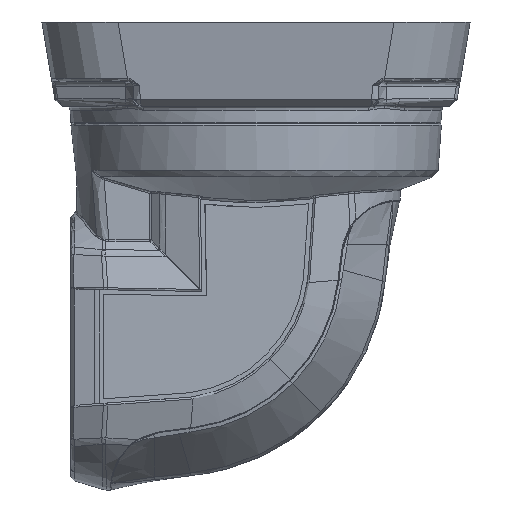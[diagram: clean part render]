
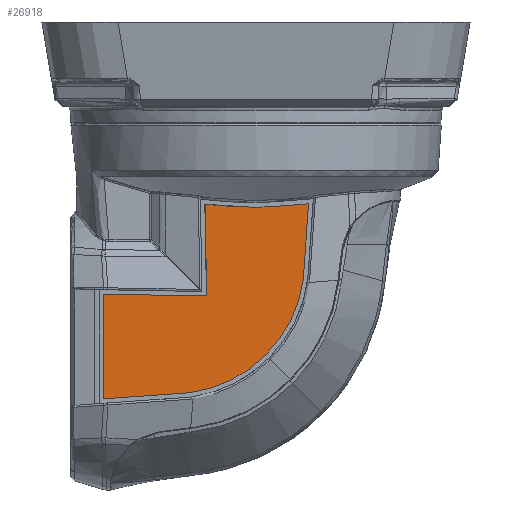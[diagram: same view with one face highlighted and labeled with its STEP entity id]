
A CAD part, left-side view. The second image highlights one B-rep face of the part: STEP entity #26918.
In plain terms, the highlighted planar face has unit normal (-1, 0.012, 0).
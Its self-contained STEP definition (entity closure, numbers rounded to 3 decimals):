
#22518=FACE_OUTER_BOUND('',#30537,.T.);
#24445=CIRCLE('',#57907,100.);
#26918=ADVANCED_FACE('',(#22518),#27241,.T.);
#27241=PLANE('',#57908);
#30537=EDGE_LOOP('',(#43127,#43128,#43129,#43130,#43131,#43132,#43133,#43134,
#43135,#43136));
#31291=LINE('',#126679,#32080);
#31293=LINE('',#126683,#32082);
#31295=LINE('',#126687,#32084);
#31300=LINE('',#126757,#32089);
#31303=LINE('',#126870,#32092);
#32080=VECTOR('',#64899,1.);
#32082=VECTOR('',#64903,1.);
#32084=VECTOR('',#64907,1.);
#32089=VECTOR('',#64914,1.);
#32092=VECTOR('',#64919,1.);
#43127=ORIENTED_EDGE('',*,*,#52242,.T.);
#43128=ORIENTED_EDGE('',*,*,#52240,.F.);
#43129=ORIENTED_EDGE('',*,*,#52238,.F.);
#43130=ORIENTED_EDGE('',*,*,#52236,.T.);
#43131=ORIENTED_EDGE('',*,*,#52245,.T.);
#43132=ORIENTED_EDGE('',*,*,#52233,.T.);
#43133=ORIENTED_EDGE('',*,*,#52231,.T.);
#43134=ORIENTED_EDGE('',*,*,#52229,.F.);
#43135=ORIENTED_EDGE('',*,*,#52227,.T.);
#43136=ORIENTED_EDGE('',*,*,#52244,.T.);
#46655=VERTEX_POINT('',#126678);
#46656=VERTEX_POINT('',#126680);
#46657=VERTEX_POINT('',#126684);
#46658=VERTEX_POINT('',#126688);
#46659=VERTEX_POINT('',#126697);
#46660=VERTEX_POINT('',#126724);
#46661=VERTEX_POINT('',#126731);
#46662=VERTEX_POINT('',#126758);
#46663=VERTEX_POINT('',#126773);
#46664=VERTEX_POINT('',#126832);
#52227=EDGE_CURVE('',#46656,#46655,#31291,.T.);
#52229=EDGE_CURVE('',#46656,#46657,#31293,.T.);
#52231=EDGE_CURVE('',#46658,#46657,#31295,.T.);
#52233=EDGE_CURVE('',#46659,#46658,#54807,.T.);
#52236=EDGE_CURVE('',#46661,#46660,#54808,.T.);
#52238=EDGE_CURVE('',#46661,#46662,#31300,.T.);
#52240=EDGE_CURVE('',#46662,#46663,#54809,.T.);
#52242=EDGE_CURVE('',#46664,#46663,#54811,.T.);
#52244=EDGE_CURVE('',#46655,#46664,#31303,.T.);
#52245=EDGE_CURVE('',#46660,#46659,#24445,.T.);
#54807=B_SPLINE_CURVE_WITH_KNOTS('',3,(#126691,#126692,#126693,#126694,#126695,
#126696),.UNSPECIFIED.,.F.,.F.,(4,2,4),(0.,0.5,1.),.UNSPECIFIED.);
#54808=B_SPLINE_CURVE_WITH_KNOTS('',3,(#126725,#126726,#126727,#126728,#126729,
#126730),.UNSPECIFIED.,.F.,.F.,(4,2,4),(0.,0.5,1.),.UNSPECIFIED.);
#54809=B_SPLINE_CURVE_WITH_KNOTS('',3,(#126761,#126762,#126763,#126764,#126765,
#126766,#126767,#126768,#126769,#126770,#126771,#126772),.UNSPECIFIED.,.F.,
 .F.,(4,2,2,2,2,4),(0.,0.503,0.755,0.88,
0.943,1.),.UNSPECIFIED.);
#54811=B_SPLINE_CURVE_WITH_KNOTS('',3,(#126826,#126827,#126828,#126829,#126830,
#126831),.UNSPECIFIED.,.F.,.F.,(4,2,4),(0.,0.5,1.),.UNSPECIFIED.);
#57907=AXIS2_PLACEMENT_3D('',#126872,#64922,#64923);
#57908=AXIS2_PLACEMENT_3D('',#126873,#64924,#64925);
#64899=DIRECTION('',(0.,0.,-1.));
#64903=DIRECTION('',(-0.012,-1.,-0.017));
#64907=DIRECTION('',(0.,-0.017,-1.));
#64914=DIRECTION('',(0.001,0.07,-0.998));
#64919=DIRECTION('',(-0.012,-0.997,0.07));
#64922=DIRECTION('',(1.,-0.012,0.));
#64923=DIRECTION('',(0.012,1.,0.));
#64924=DIRECTION('',(-1.,0.012,0.));
#64925=DIRECTION('',(0.012,1.,0.));
#126678=CARTESIAN_POINT('',(397.59,-48.904,-132.524));
#126679=CARTESIAN_POINT('',(397.59,-48.904,-41.742));
#126680=CARTESIAN_POINT('',(397.59,-48.904,-85.112));
#126683=CARTESIAN_POINT('',(396.569,-132.48,-86.571));
#126684=CARTESIAN_POINT('',(397.02,-95.557,-85.927));
#126687=CARTESIAN_POINT('',(397.029,-94.797,-42.413));
#126688=CARTESIAN_POINT('',(397.029,-94.832,-44.367));
#126691=CARTESIAN_POINT('',(396.784,-114.907,-45.63));
#126692=CARTESIAN_POINT('',(396.824,-111.582,-45.536));
#126693=CARTESIAN_POINT('',(396.865,-108.223,-45.439));
#126694=CARTESIAN_POINT('',(396.947,-101.52,-45.026));
#126695=CARTESIAN_POINT('',(396.988,-98.173,-44.737));
#126696=CARTESIAN_POINT('',(397.029,-94.832,-44.367));
#126697=CARTESIAN_POINT('',(396.784,-114.907,-45.63));
#126724=CARTESIAN_POINT('',(396.707,-121.15,-45.612));
#126725=CARTESIAN_POINT('',(396.455,-141.813,-44.166));
#126726=CARTESIAN_POINT('',(396.497,-138.376,-44.576));
#126727=CARTESIAN_POINT('',(396.539,-134.932,-44.9));
#126728=CARTESIAN_POINT('',(396.623,-128.033,-45.374));
#126729=CARTESIAN_POINT('',(396.665,-124.574,-45.496));
#126730=CARTESIAN_POINT('',(396.707,-121.15,-45.612));
#126731=CARTESIAN_POINT('',(396.455,-141.813,-44.166));
#126757=CARTESIAN_POINT('',(396.484,-139.407,-78.578));
#126758=CARTESIAN_POINT('',(396.484,-139.424,-78.335));
#126761=CARTESIAN_POINT('',(396.484,-139.424,-78.335));
#126762=CARTESIAN_POINT('',(396.494,-138.577,-84.904));
#126763=CARTESIAN_POINT('',(396.518,-136.674,-91.144));
#126764=CARTESIAN_POINT('',(396.572,-132.237,-100.025));
#126765=CARTESIAN_POINT('',(396.593,-130.533,-102.825));
#126766=CARTESIAN_POINT('',(396.628,-127.643,-106.781));
#126767=CARTESIAN_POINT('',(396.64,-126.623,-108.059));
#126768=CARTESIAN_POINT('',(396.66,-125.011,-109.914));
#126769=CARTESIAN_POINT('',(396.667,-124.46,-110.523));
#126770=CARTESIAN_POINT('',(396.68,-123.384,-111.662));
#126771=CARTESIAN_POINT('',(396.686,-122.87,-112.182));
#126772=CARTESIAN_POINT('',(396.693,-122.326,-112.719));
#126773=CARTESIAN_POINT('',(396.693,-122.326,-112.72));
#126826=CARTESIAN_POINT('',(397.113,-87.967,-129.793));
#126827=CARTESIAN_POINT('',(397.033,-94.491,-128.952));
#126828=CARTESIAN_POINT('',(396.957,-100.686,-127.071));
#126829=CARTESIAN_POINT('',(396.813,-112.464,-121.221));
#126830=CARTESIAN_POINT('',(396.749,-117.719,-117.407));
#126831=CARTESIAN_POINT('',(396.693,-122.326,-112.72));
#126832=CARTESIAN_POINT('',(397.113,-87.967,-129.793));
#126870=CARTESIAN_POINT('',(396.487,-139.169,-126.212));
#126872=CARTESIAN_POINT('',(396.749,-117.743,54.33));
#126873=CARTESIAN_POINT('',(396.559,-133.263,-41.742));
